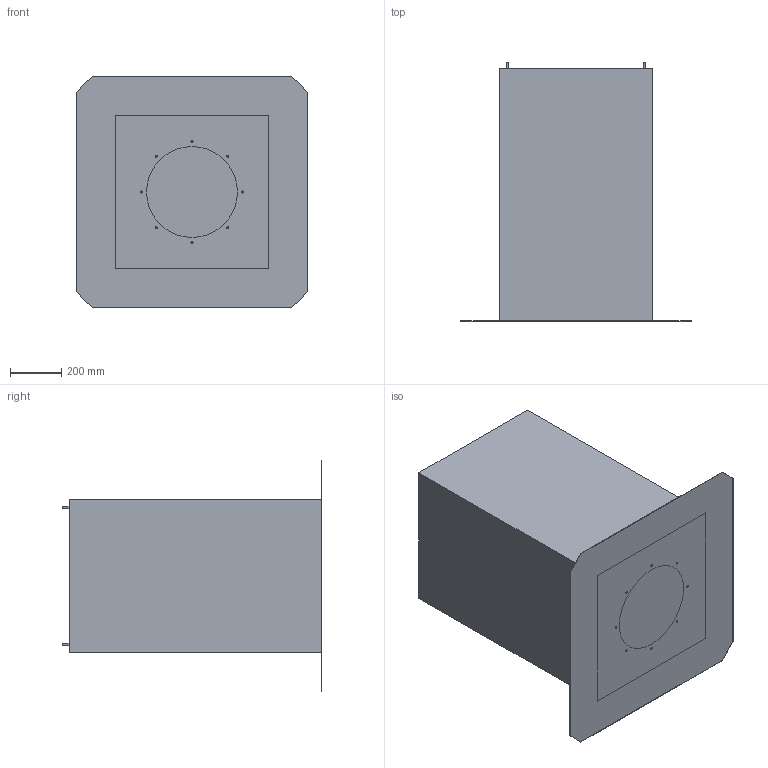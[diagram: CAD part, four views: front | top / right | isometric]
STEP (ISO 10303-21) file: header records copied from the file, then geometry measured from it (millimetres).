
FILE_DESCRIPTION(/* description */ (''),/* implementation_level */ '2;1');
FILE_NAME(/* name */ 'Z:\19_Helios\2018\InspirOn_Work\Output\SSD_355-05024-001.stp',/* time_stamp */ '2018-06-11T17:23:18+06:00',/* author */ ('engineering1'),/* organization */ (''),/* preprocessor_version */ 'ST-DEVELOPER v16.1',/* originating_system */ 'Autodesk Inventor 2016',/* authorisation */ '');
FILE_SCHEMA (('AUTOMOTIVE_DESIGN { 1 0 10303 214 3 1 1 }'));
Length unit declared in the file: millimetre
Products named in the file (1): SSD-1
Bounding box: 900.43 x 1010 x 900.43 mm (x, y, z)
Volume: 255921780.7 mm3; surface area: 5089097.1 mm2
Topology: 1 solids, 1 shells, 46 faces, 87 edges, 58 vertices
Faces by surface type: plane 33, cylinder 13
Full cylindrical faces by diameter (mm): 8 x12, 355 x1
Entity records: 1124 total; most frequent: DIRECTION 194, CARTESIAN_POINT 179, ORIENTED_EDGE 148, EDGE_LOOP 74, EDGE_CURVE 74, AXIS2_PLACEMENT_3D 73, VERTEX_POINT 58, LINE 48
